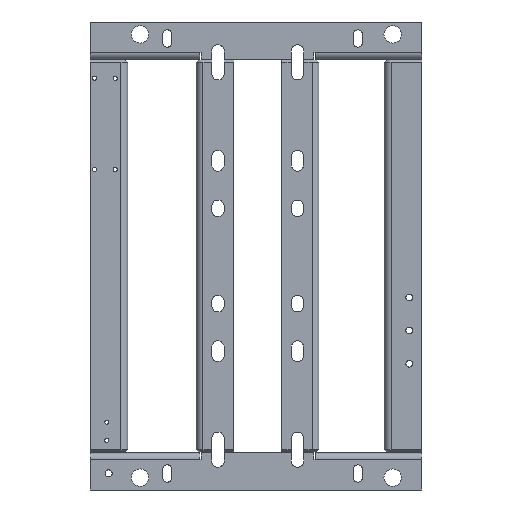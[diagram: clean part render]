
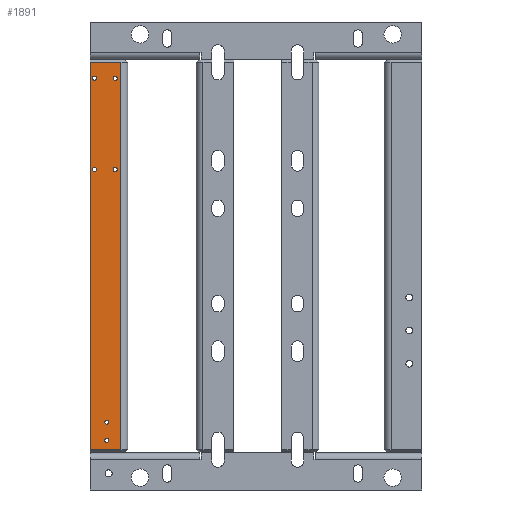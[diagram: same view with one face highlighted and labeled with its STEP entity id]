
A CAD part, front view. The second image highlights one B-rep face of the part: STEP entity #1891.
In plain terms, the highlighted planar face has unit normal (0, -1, 0).
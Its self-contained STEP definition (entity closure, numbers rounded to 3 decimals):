
#1891=ADVANCED_FACE('',(#3339,#3341,#3343,#3345,#3347,#3349,#3351),#3353,.F.);
#3339=FACE_BOUND('',#3340,.T.);
#3340=EDGE_LOOP('',(#4353,#4354,#4355,#4356));
#3341=FACE_BOUND('',#3342,.T.);
#3342=EDGE_LOOP('',(#4357));
#3343=FACE_BOUND('',#3344,.T.);
#3344=EDGE_LOOP('',(#4358));
#3345=FACE_BOUND('',#3346,.T.);
#3346=EDGE_LOOP('',(#4359));
#3347=FACE_BOUND('',#3348,.T.);
#3348=EDGE_LOOP('',(#4360));
#3349=FACE_BOUND('',#3350,.T.);
#3350=EDGE_LOOP('',(#4361));
#3351=FACE_BOUND('',#3352,.T.);
#3352=EDGE_LOOP('',(#4362));
#3353=PLANE('',#3354);
#3354=AXIS2_PLACEMENT_3D('',#3355,#3356,#3357);
#3355=CARTESIAN_POINT('',(0.,-40.,-32.796));
#3356=DIRECTION('',(0.,1.,0.));
#3357=DIRECTION('',(-1.,0.,0.));
#4353=ORIENTED_EDGE('',*,*,#4859,.F.);
#4354=ORIENTED_EDGE('',*,*,#4860,.T.);
#4355=ORIENTED_EDGE('',*,*,#4861,.F.);
#4356=ORIENTED_EDGE('',*,*,#4862,.F.);
#4357=ORIENTED_EDGE('',*,*,#4863,.T.);
#4358=ORIENTED_EDGE('',*,*,#4864,.T.);
#4359=ORIENTED_EDGE('',*,*,#4865,.T.);
#4360=ORIENTED_EDGE('',*,*,#4866,.T.);
#4361=ORIENTED_EDGE('',*,*,#4867,.T.);
#4362=ORIENTED_EDGE('',*,*,#4868,.T.);
#4859=EDGE_CURVE('',#5563,#5564,#5565,.T.);
#4860=EDGE_CURVE('',#5563,#5566,#5567,.T.);
#4861=EDGE_CURVE('',#5568,#5566,#5569,.T.);
#4862=EDGE_CURVE('',#5564,#5568,#5570,.T.);
#4863=EDGE_CURVE('',#5571,#5571,#5572,.F.);
#4864=EDGE_CURVE('',#5573,#5573,#5574,.F.);
#4865=EDGE_CURVE('',#5575,#5575,#5576,.F.);
#4866=EDGE_CURVE('',#5577,#5577,#5578,.F.);
#4867=EDGE_CURVE('',#5579,#5579,#5580,.F.);
#4868=EDGE_CURVE('',#5581,#5581,#5582,.F.);
#5563=VERTEX_POINT('',#7187);
#5564=VERTEX_POINT('',#7188);
#5565=LINE('',#7189,#7190);
#5566=VERTEX_POINT('',#7192);
#5567=LINE('',#7193,#7194);
#5568=VERTEX_POINT('',#7196);
#5569=LINE('',#7197,#7198);
#5570=LINE('',#7200,#7201);
#5571=VERTEX_POINT('',#7203);
#5572=CIRCLE('',#7204,2.5);
#5573=VERTEX_POINT('',#7208);
#5574=CIRCLE('',#7209,2.5);
#5575=VERTEX_POINT('',#7213);
#5576=CIRCLE('',#7214,2.5);
#5577=VERTEX_POINT('',#7218);
#5578=CIRCLE('',#7219,2.5);
#5579=VERTEX_POINT('',#7223);
#5580=CIRCLE('',#7224,2.5);
#5581=VERTEX_POINT('',#7228);
#5582=CIRCLE('',#7229,2.5);
#7187=CARTESIAN_POINT('',(-470.483,-40.,8.));
#7188=CARTESIAN_POINT('',(-470.483,-40.,45.));
#7189=CARTESIAN_POINT('',(-470.483,-40.,8.));
#7190=VECTOR('',#7191,1.);
#7191=DIRECTION('',(0.,0.,1.));
#7192=CARTESIAN_POINT('',(-2.517,-40.,8.));
#7193=CARTESIAN_POINT('',(-470.483,-40.,8.));
#7194=VECTOR('',#7195,1.);
#7195=DIRECTION('',(1.,0.,0.));
#7196=CARTESIAN_POINT('',(-2.517,-40.,45.));
#7197=CARTESIAN_POINT('',(-2.517,-40.,45.));
#7198=VECTOR('',#7199,1.);
#7199=DIRECTION('',(0.,0.,-1.));
#7200=CARTESIAN_POINT('',(-470.483,-40.,45.));
#7201=VECTOR('',#7202,1.);
#7202=DIRECTION('',(1.,0.,0.));
#7203=CARTESIAN_POINT('',(-24.5,-40.,15.));
#7204=AXIS2_PLACEMENT_3D('',#7205,#7206,#7207);
#7205=CARTESIAN_POINT('',(-22.,-40.,15.));
#7206=DIRECTION('',(-0.,-1.,0.));
#7207=DIRECTION('',(-1.,0.,0.));
#7208=CARTESIAN_POINT('',(-461.5,-40.,25.));
#7209=AXIS2_PLACEMENT_3D('',#7210,#7211,#7212);
#7210=CARTESIAN_POINT('',(-459.,-40.,25.));
#7211=DIRECTION('',(-0.,-1.,0.));
#7212=DIRECTION('',(-1.,0.,0.));
#7213=CARTESIAN_POINT('',(-439.5,-40.,25.));
#7214=AXIS2_PLACEMENT_3D('',#7215,#7216,#7217);
#7215=CARTESIAN_POINT('',(-437.,-40.,25.));
#7216=DIRECTION('',(-0.,-1.,0.));
#7217=DIRECTION('',(-1.,0.,0.));
#7218=CARTESIAN_POINT('',(-134.5,-40.,15.));
#7219=AXIS2_PLACEMENT_3D('',#7220,#7221,#7222);
#7220=CARTESIAN_POINT('',(-132.,-40.,15.));
#7221=DIRECTION('',(-0.,-1.,0.));
#7222=DIRECTION('',(-1.,0.,0.));
#7223=CARTESIAN_POINT('',(-134.5,-40.,40.));
#7224=AXIS2_PLACEMENT_3D('',#7225,#7226,#7227);
#7225=CARTESIAN_POINT('',(-132.,-40.,40.));
#7226=DIRECTION('',(-0.,-1.,0.));
#7227=DIRECTION('',(-1.,0.,0.));
#7228=CARTESIAN_POINT('',(-24.5,-40.,40.));
#7229=AXIS2_PLACEMENT_3D('',#7230,#7231,#7232);
#7230=CARTESIAN_POINT('',(-22.,-40.,40.));
#7231=DIRECTION('',(-0.,-1.,0.));
#7232=DIRECTION('',(-1.,0.,0.));
